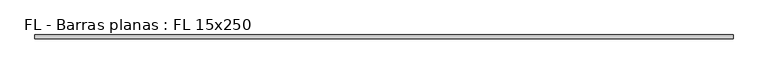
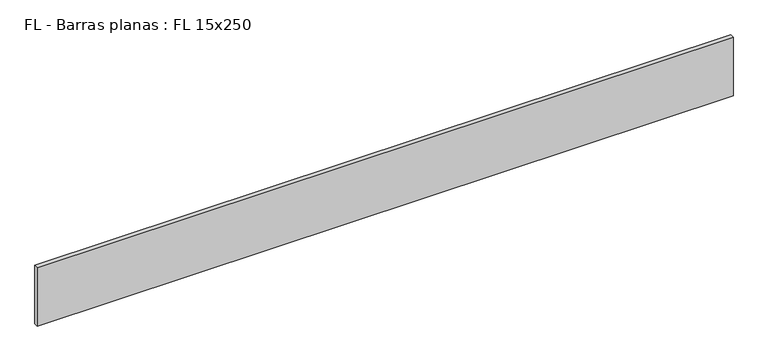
"""IFC4 building model written with IfcOpenShell, lengths in millimetres: beam geometry, FL - Barras planas : FL 15x250."""

from ifc_helpers import new_model, si_unit, frame, origin, place, context, project, spatial, polyline, outline, extrude, source, transform, mapped, element, save


def fl_barras_planas_fl_15x250_6944f389(model_context):
    return source(origin(), model_context, "Body", "SweptSolid", [
        extrude(outline(polyline([(-1406.5, -7.5), (-1406.5, 7.5), (1406.5, 7.5), (1406.5, -7.5), (-1406.5, -7.5)])), frame((0.0, 0.0, -125.0), z_axis=(0.0, 0.0, 1.0), x_axis=(1.0, 0.0, 0.0)), (0.0, 0.0, 1.0), 250.0),
    ])


if __name__ == "__main__":
    model = new_model("IFC4")
    model_context = context("Model", 3, world=origin())
    ifc_project = project(units=[si_unit("LENGTHUNIT", "METRE", prefix="MILLI")], contexts=[model_context])
    site = spatial("IfcSite", under=ifc_project)
    building = spatial("IfcBuilding", under=site)
    placement = place(None, origin())
    fl_barras_planas_fl_15x250_shape = fl_barras_planas_fl_15x250_6944f389(model_context)
    element("IfcBeam", 1, ObjectType="FL - Barras planas : FL 15x250", at=placement, inside=building, context=model_context, shape_type="MappedRepresentation", body=[
        mapped(fl_barras_planas_fl_15x250_shape, transform((0.0, 0.0, 0.0), x_axis=(1.0, 0.0, 0.0), y_axis=(0.0, 1.0, 0.0), z_axis=(0.0, 0.0, 1.0))),
    ])
    save(model, "model.ifc")
